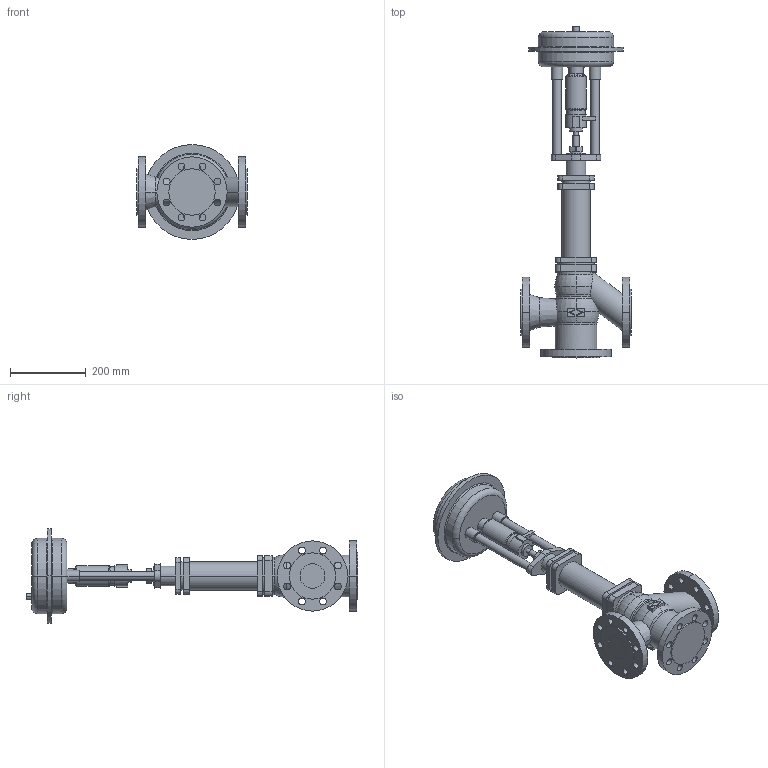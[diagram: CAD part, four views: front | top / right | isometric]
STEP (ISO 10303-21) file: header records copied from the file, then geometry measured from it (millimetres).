
FILE_DESCRIPTION(('OneSpaceDesigner STEP Export'),'2;1');
FILE_NAME('c000000724.stp','2006-09-20T11:14:57',(''),(''),'OneSpace Designer STEP processor for AP214 (Solid Model)','OneSpace Designer 13.20A 18-Aug-2005 (C) CoCreate Software GmbH','');
FILE_SCHEMA(('AUTOMOTIVE_DESIGN { 1 0 10303 214 1 1 1 1 }'));
Length unit declared in the file: millimetre
Products named in the file (2): 1; 2
Bounding box: 290 x 875 x 250 mm (x, y, z)
Volume: 9521819.4 mm3; surface area: 645096.8 mm2
Topology: 2 solids, 2 shells, 281 faces, 707 edges, 464 vertices
Faces by surface type: cylinder 138, plane 101, torus 34, cone 8
Entity records: 7642 total; most frequent: ORIENTED_EDGE 1414, CARTESIAN_POINT 1407, DIRECTION 1136, EDGE_CURVE 707, VERTEX_POINT 464, AXIS2_PLACEMENT_3D 415, EDGE_LOOP 363, VECTOR 306
